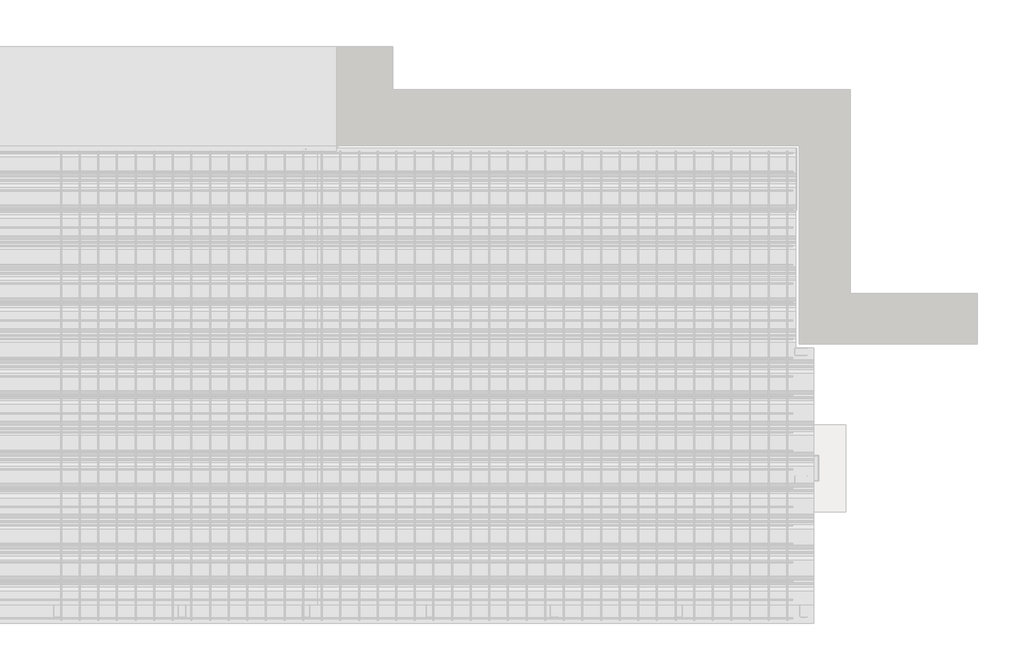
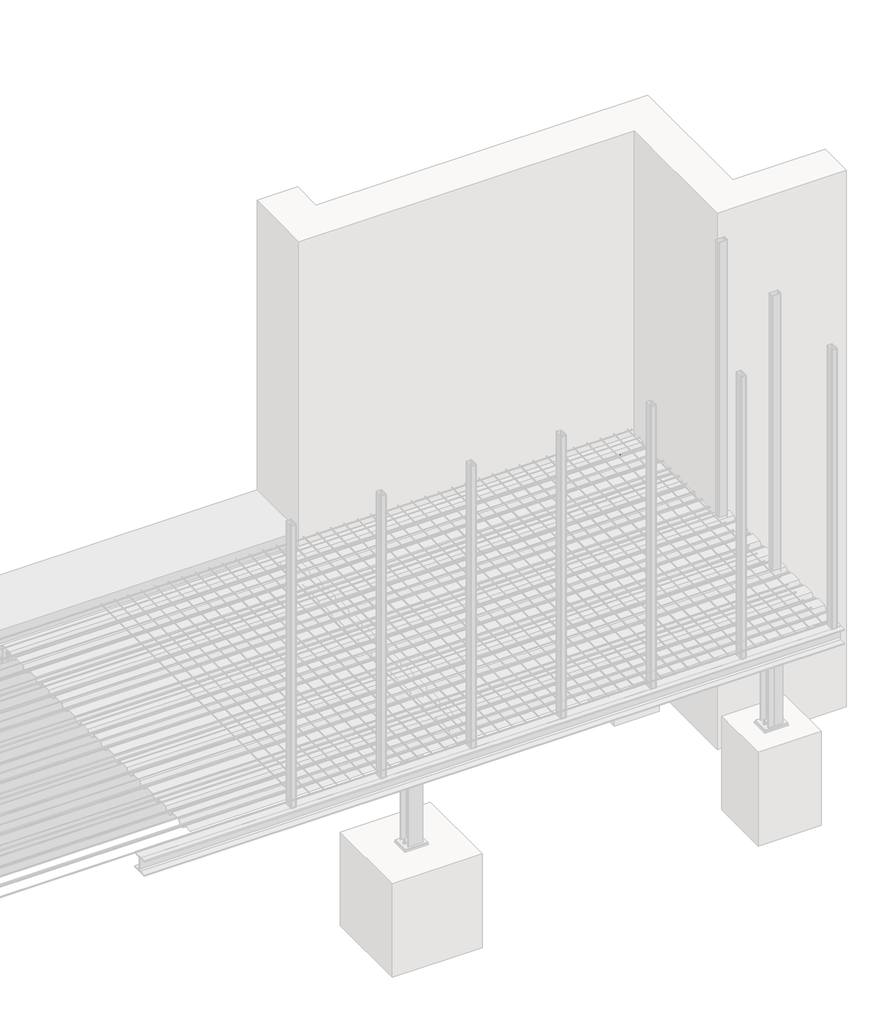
# One storey, part 34 of 36: 6 assemblies.
"""IFC4 building model written with IfcOpenShell, lengths in millimetres."""

from ifc_helpers import new_model, si_unit, point, frame, frame_2d, origin, place, context, project, spatial, polyline, circle_curve, ellipse_curve, trimmed, segment, composite_curve, outline, extrude, faceted_brep, element, save
from ifc_brep_helpers import plane_surface, revolved_surface, advanced_brep

model = new_model("IFC4")

# Units and contexts
model_context = context("Model", 3, world=origin())
ifc_project = project(units=[si_unit("LENGTHUNIT", "METRE", prefix="MILLI")], contexts=[model_context])

# Site, building, storey
site = spatial("IfcSite", under=ifc_project)
building = spatial("IfcBuilding", under=site)
storey = spatial("IfcBuildingStorey", under=building, Name="Základy", Elevation=-1200.0)

# Assemblies
placement = place(None, origin())
element("IfcElementAssembly", 1, at=placement, inside=storey, context=model_context, shape_type="AdvancedBrep", body=[
    advanced_brep(
    [(15960.0, 2050.0, -160.0), (16140.0, 2230.0, -160.0), (15995.0, 2230.0, -160.0), (15815.0, 2050.0, -160.0), (15960.0, 2050.0, -174.0), (15815.0, 2050.0, -174.0), (16030.75, 2120.75, -174.0), (15885.75, 2120.75, -174.0), (16045.75, 2135.75, -189.0), (15900.75, 2135.75, -189.0), (16045.75, 2135.75, -311.0), (15900.75, 2135.75, -311.0), (16030.75, 2120.75, -326.0), (15885.75, 2120.75, -326.0), (15960.0, 2050.0, -326.0), (15815.0, 2050.0, -326.0), (15960.0, 2050.0, -340.0), (15815.0, 2050.0, -340.0), (16140.0, 2230.0, -340.0), (15995.0, 2230.0, -340.0), (16140.0, 2230.0, -326.0), (15995.0, 2230.0, -326.0), (16069.25, 2159.25, -326.0), (15924.25, 2159.25, -326.0), (16054.25, 2144.25, -311.0), (15909.25, 2144.25, -311.0), (16054.25, 2144.25, -189.0), (15909.25, 2144.25, -189.0), (16069.25, 2159.25, -174.0), (15924.25, 2159.25, -174.0), (16140.0, 2230.0, -174.0), (15995.0, 2230.0, -174.0)],
    [
        (0, 1),
        (1, 2),
        (2, 3),
        (3, 0),
        (4, 0),
        (3, 5),
        (5, 4),
        (6, 4),
        (5, 7),
        (7, 6),
        (8, 6, ellipse_curve(frame((16030.75, 2120.75, -189.0), z_axis=(0.7071067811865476, -0.7071067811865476, 0.0), x_axis=(-0.7071067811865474, -0.7071067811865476, 0.0)), 21.2132034, 15.0)),
        (7, 9, ellipse_curve(frame((15885.75, 2120.75, -189.0), z_axis=(-0.7071067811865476, 0.7071067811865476, 0.0), x_axis=(-0.7071067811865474, -0.7071067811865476, 0.0)), 21.2132034, 15.0)),
        (9, 8),
        (10, 8),
        (9, 11),
        (11, 10),
        (12, 10, ellipse_curve(frame((16030.75, 2120.75, -311.0), z_axis=(0.7071067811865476, -0.7071067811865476, 0.0), x_axis=(-0.7071067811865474, -0.7071067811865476, 0.0)), 21.2132034, 15.0)),
        (11, 13, ellipse_curve(frame((15885.75, 2120.75, -311.0), z_axis=(-0.7071067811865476, 0.7071067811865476, 0.0), x_axis=(-0.7071067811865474, -0.7071067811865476, 0.0)), 21.2132034, 15.0)),
        (13, 12),
        (14, 12),
        (13, 15),
        (15, 14),
        (16, 14),
        (15, 17),
        (17, 16),
        (18, 16),
        (17, 19),
        (19, 18),
        (20, 18),
        (19, 21),
        (21, 20),
        (22, 20),
        (21, 23),
        (23, 22),
        (24, 22, ellipse_curve(frame((16069.25, 2159.25, -311.0), z_axis=(0.7071067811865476, -0.7071067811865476, 0.0), x_axis=(-0.7071067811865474, -0.7071067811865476, 0.0)), 21.2132034, 15.0)),
        (23, 25, ellipse_curve(frame((15924.25, 2159.25, -311.0), z_axis=(-0.7071067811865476, 0.7071067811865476, 0.0), x_axis=(-0.7071067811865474, -0.7071067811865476, 0.0)), 21.2132034, 15.0)),
        (25, 24),
        (26, 24),
        (25, 27),
        (27, 26),
        (28, 26, ellipse_curve(frame((16069.25, 2159.25, -189.0), z_axis=(0.7071067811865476, -0.7071067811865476, 0.0), x_axis=(-0.7071067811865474, -0.7071067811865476, 0.0)), 21.2132034, 15.0)),
        (27, 29, ellipse_curve(frame((15924.25, 2159.25, -189.0), z_axis=(-0.7071067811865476, 0.7071067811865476, 0.0), x_axis=(-0.7071067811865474, -0.7071067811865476, 0.0)), 21.2132034, 15.0)),
        (29, 28),
        (30, 28),
        (29, 31),
        (31, 30),
        (1, 30),
        (31, 2),
    ],
    [
        plane_surface(frame((16150.0, 2230.0, -160.0), z_axis=(0.0, 0.0, 1.0), x_axis=(-1.0, 0.0, 0.0))),
        plane_surface(frame((16150.0, 2050.0, -160.0), z_axis=(0.0, -1.0, 0.0), x_axis=(-1.0, 0.0, 0.0))),
        plane_surface(frame((16150.0, 2050.0, -174.0), z_axis=(0.0, 0.0, -1.0), x_axis=(-1.0, 0.0, 0.0))),
        revolved_surface(polyline([(15870.750000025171, 2105.75, -189.0), (16045.75, 2105.75, -189.0)]), (15805.0, 2120.75, -189.0), (-1.0, 0.0, 0.0)),
        plane_surface(frame((16150.0, 2135.75, -189.0), z_axis=(0.0, -1.0, 0.0), x_axis=(-1.0, 0.0, 0.0))),
        revolved_surface(polyline([(15870.750000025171, 2105.75, -311.0), (16045.75, 2105.75, -311.0)]), (15805.0, 2120.75, -311.0), (-1.0, 0.0, 0.0)),
        plane_surface(frame((16150.0, 2120.75, -326.0), z_axis=(0.0, 0.0, 1.0), x_axis=(-1.0, 0.0, 0.0))),
        plane_surface(frame((16150.0, 2050.0, -326.0), z_axis=(0.0, -1.0, 0.0), x_axis=(-1.0, 0.0, 0.0))),
        plane_surface(frame((16150.0, 2050.0, -340.0), z_axis=(0.0, 0.0, -1.0), x_axis=(-1.0, 0.0, 0.0))),
        plane_surface(frame((16150.0, 2230.0, -340.0), z_axis=(0.0, 1.0, 0.0), x_axis=(-1.0, 0.0, 0.0))),
        plane_surface(frame((16150.0, 2230.0, -326.0), z_axis=(0.0, 0.0, 1.0), x_axis=(-1.0, 0.0, 0.0))),
        revolved_surface(polyline([(15909.25, 2144.25, -311.0), (16084.249999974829, 2144.25, -311.0)]), (15805.0, 2159.25, -311.0), (-1.0, 0.0, 0.0)),
        plane_surface(frame((16150.0, 2144.25, -311.0), z_axis=(0.0, 1.0, 0.0), x_axis=(-1.0, 0.0, 0.0))),
        revolved_surface(polyline([(15909.25, 2144.25, -189.0), (16084.249999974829, 2144.25, -189.0)]), (15805.0, 2159.25, -189.0), (-1.0, 0.0, 0.0)),
        plane_surface(frame((16150.0, 2159.25, -174.0), z_axis=(0.0, 0.0, -1.0), x_axis=(-1.0, 0.0, 0.0))),
        plane_surface(frame((16150.0, 2230.0, -174.0), z_axis=(0.0, 1.0, 0.0), x_axis=(-1.0, 0.0, 0.0))),
        plane_surface(frame((16150.0, 2240.0, -160.0), z_axis=(0.7071067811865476, -0.7071067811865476, 0.0), x_axis=(0.7071067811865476, 0.7071067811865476, 0.0))),
        plane_surface(frame((15805.0, 2040.0, -160.0), z_axis=(-0.7071067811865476, 0.7071067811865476, 0.0), x_axis=(0.7071067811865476, 0.7071067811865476, 0.0))),
    ],
    [
        (0, [[1, 2, 3, 4]]),
        (1, [[5, -4, 6, 7]]),
        (2, [[8, -7, 9, 10]]),
        (3, [[11, -10, 12, 13]]),
        (4, [[14, -13, 15, 16]]),
        (5, [[17, -16, 18, 19]]),
        (6, [[20, -19, 21, 22]]),
        (7, [[23, -22, 24, 25]]),
        (8, [[26, -25, 27, 28]]),
        (9, [[29, -28, 30, 31]]),
        (10, [[32, -31, 33, 34]]),
        (11, [[35, -34, 36, 37]]),
        (12, [[38, -37, 39, 40]]),
        (13, [[41, -40, 42, 43]]),
        (14, [[44, -43, 45, 46]]),
        (15, [[47, -46, 48, -2]]),
        (16, [[-1, -5, -8, -11, -14, -17, -20, -23, -26, -29, -32, -35, -38, -41, -44, -47]]),
        (17, [[-3, -48, -45, -42, -39, -36, -33, -30, -27, -24, -21, -18, -15, -12, -9, -6]]),
    ],
),
])
element("IfcElementAssembly", 2, at=placement, inside=storey, context=model_context, shape_type="SolidModel", body=[
    advanced_brep(
    [(15995.0, 3840.0, -340.0), (15815.0, 3840.0, -340.0), (15815.0, 3840.0, -326.0), (15885.75, 3840.0, -326.0), (15900.75, 3840.0, -311.0), (15900.75, 3840.0, -189.0), (15885.75, 3840.0, -174.0), (15815.0, 3840.0, -174.0), (15815.0, 3840.0, -160.0), (15995.0, 3840.0, -160.0), (15995.0, 3840.0, -174.0), (15924.25, 3840.0, -174.0), (15909.25, 3840.0, -189.0), (15909.25, 3840.0, -311.0), (15924.25, 3840.0, -326.0), (15995.0, 3840.0, -326.0), (15995.0, 2230.0, -340.0), (15815.0, 2050.0, -340.0), (15815.0, 2050.0, -326.0), (15885.75, 2120.75, -326.0), (15900.75, 2135.75, -311.0), (15900.75, 2135.75, -189.0), (15885.75, 2120.75, -174.0), (15815.0, 2050.0, -174.0), (15815.0, 2050.0, -160.0), (15995.0, 2230.0, -160.0), (15995.0, 2230.0, -174.0), (15924.25, 2159.25, -174.0), (15909.25, 2144.25, -189.0), (15909.25, 2144.25, -311.0), (15924.25, 2159.25, -326.0), (15995.0, 2230.0, -326.0)],
    [
        (0, 1),
        (1, 2),
        (2, 3),
        (3, 4, circle_curve(frame((15885.75, 3840.0, -311.0), z_axis=(0.0, -1.0, 0.0), x_axis=(-1.0, 0.0, 0.0)), 15.0)),
        (4, 5),
        (5, 6, circle_curve(frame((15885.75, 3840.0, -189.0), z_axis=(0.0, -1.0, 0.0), x_axis=(-1.0, 0.0, 0.0)), 15.0)),
        (6, 7),
        (7, 8),
        (8, 9),
        (9, 10),
        (10, 11),
        (11, 12, circle_curve(frame((15924.25, 3840.0, -189.0), z_axis=(0.0, -1.0, 0.0), x_axis=(-1.0, 0.0, 0.0)), 15.0)),
        (12, 13),
        (13, 14, circle_curve(frame((15924.25, 3840.0, -311.0), z_axis=(0.0, -1.0, 0.0), x_axis=(-1.0, 0.0, 0.0)), 15.0)),
        (14, 15),
        (15, 0),
        (0, 16),
        (16, 17),
        (17, 1),
        (17, 18),
        (18, 2),
        (18, 19),
        (19, 3),
        (19, 20, ellipse_curve(frame((15885.75, 2120.75, -311.0), z_axis=(0.7071067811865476, -0.7071067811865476, 0.0), x_axis=(-0.7071067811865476, -0.7071067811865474, 0.0)), 21.2132034, 15.0)),
        (20, 4),
        (20, 21),
        (21, 5),
        (21, 22, ellipse_curve(frame((15885.75, 2120.75, -189.0), z_axis=(0.7071067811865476, -0.7071067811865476, 0.0), x_axis=(-0.7071067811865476, -0.7071067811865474, 0.0)), 21.2132034, 15.0)),
        (22, 6),
        (22, 23),
        (23, 7),
        (23, 24),
        (24, 8),
        (24, 25),
        (25, 9),
        (25, 26),
        (26, 10),
        (26, 27),
        (27, 11),
        (27, 28, ellipse_curve(frame((15924.25, 2159.25, -189.0), z_axis=(0.7071067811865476, -0.7071067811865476, 0.0), x_axis=(-0.7071067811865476, -0.7071067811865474, 0.0)), 21.2132034, 15.0)),
        (28, 12),
        (28, 29),
        (29, 13),
        (29, 30, ellipse_curve(frame((15924.25, 2159.25, -311.0), z_axis=(0.7071067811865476, -0.7071067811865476, 0.0), x_axis=(-0.7071067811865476, -0.7071067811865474, 0.0)), 21.2132034, 15.0)),
        (30, 14),
        (30, 31),
        (31, 15),
        (31, 16),
    ],
    [
        plane_surface(frame((15905.0, 3840.0, -250.0), z_axis=(0.0, 1.0, 0.0), x_axis=(0.0, 0.0, 1.0))),
        plane_surface(frame((15995.0, 3840.0, -340.0), z_axis=(0.0, 0.0, -1.0), x_axis=(0.0, -1.0, 0.0))),
        plane_surface(frame((15815.0, 3840.0, -340.0), z_axis=(-1.0, 0.0, 0.0), x_axis=(0.0, -1.0, 0.0))),
        plane_surface(frame((15815.0, 3840.0, -326.0), z_axis=(0.0, 0.0, 1.0), x_axis=(0.0, -1.0, 0.0))),
        revolved_surface(polyline([(15870.75, 2105.7500000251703, -311.0), (15870.75, 3840.0, -311.0)]), (15885.75, 2040.0, -311.0), (0.0, -1.0, 0.0)),
        plane_surface(frame((15900.75, 3840.0, -311.0), z_axis=(-1.0, 0.0, 0.0), x_axis=(0.0, -1.0, 0.0))),
        revolved_surface(polyline([(15870.75, 2105.7500000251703, -189.0), (15870.75, 3840.0, -189.0)]), (15885.75, 2040.0, -189.0), (0.0, -1.0, 0.0)),
        plane_surface(frame((15885.75, 3840.0, -174.0), z_axis=(0.0, 0.0, -1.0), x_axis=(0.0, -1.0, 0.0))),
        plane_surface(frame((15815.0, 3840.0, -174.0), z_axis=(-1.0, 0.0, 0.0), x_axis=(0.0, -1.0, 0.0))),
        plane_surface(frame((15815.0, 3840.0, -160.0), z_axis=(0.0, 0.0, 1.0), x_axis=(0.0, -1.0, 0.0))),
        plane_surface(frame((15995.0, 3840.0, -160.0), z_axis=(1.0, 0.0, 0.0), x_axis=(0.0, -1.0, 0.0))),
        plane_surface(frame((15995.0, 3840.0, -174.0), z_axis=(0.0, 0.0, -1.0), x_axis=(0.0, -1.0, 0.0))),
        revolved_surface(polyline([(15909.25, 2144.25, -189.0), (15909.25, 3840.0, -189.0)]), (15924.25, 2040.0, -189.0), (0.0, -1.0, 0.0)),
        plane_surface(frame((15909.25, 3840.0, -189.0), z_axis=(1.0, 0.0, 0.0), x_axis=(0.0, -1.0, 0.0))),
        revolved_surface(polyline([(15909.25, 2144.25, -311.0), (15909.25, 3840.0, -311.0)]), (15924.25, 2040.0, -311.0), (0.0, -1.0, 0.0)),
        plane_surface(frame((15924.25, 3840.0, -326.0), z_axis=(0.0, 0.0, 1.0), x_axis=(0.0, -1.0, 0.0))),
        plane_surface(frame((15995.0, 3840.0, -326.0), z_axis=(1.0, 0.0, 0.0), x_axis=(0.0, -1.0, 0.0))),
        plane_surface(frame((16005.0, 2240.0, -160.0), z_axis=(0.7071067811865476, -0.7071067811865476, 0.0), x_axis=(0.7071067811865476, 0.7071067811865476, 0.0))),
    ],
    [
        (0, [[1, 2, 3, 4, 5, 6, 7, 8, 9, 10, 11, 12, 13, 14, 15, 16]]),
        (1, [[-1, 17, 18, 19]]),
        (2, [[-2, -19, 20, 21]]),
        (3, [[-3, -21, 22, 23]]),
        (4, [[-4, -23, 24, 25]]),
        (5, [[-5, -25, 26, 27]]),
        (6, [[-6, -27, 28, 29]]),
        (7, [[-7, -29, 30, 31]]),
        (8, [[-8, -31, 32, 33]]),
        (9, [[-9, -33, 34, 35]]),
        (10, [[-10, -35, 36, 37]]),
        (11, [[-11, -37, 38, 39]]),
        (12, [[-12, -39, 40, 41]]),
        (13, [[-13, -41, 42, 43]]),
        (14, [[-14, -43, 44, 45]]),
        (15, [[-15, -45, 46, 47]]),
        (16, [[-16, -47, 48, -17]]),
        (17, [[-18, -48, -46, -44, -42, -40, -38, -36, -34, -32, -30, -28, -26, -24, -22, -20]]),
    ],
),
    extrude(outline(polyline([(15805.0, 3765.0), (15805.0, 3835.0), (15815.0, 3835.0), (15815.0, 3765.0), (15805.0, 3765.0)])), frame((0.0, 0.0, -330.0), z_axis=(0.0, 0.0, 1.0), x_axis=(1.0, 0.0, 0.0)), (0.0, 0.0, 1.0), 160.0),
    extrude(outline(composite_curve([segment(polyline([(-174.0, 15815.0), (-326.0, 15815.0), (-326.0, 15875.5)]), True, "CONTINUOUS"), segment(trimmed(circle_curve(frame_2d((-326.0, 15900.5)), 25.0), [point((-326.0, 15875.5))], [point((-301.0, 15900.5))], True, "CARTESIAN"), True, "CONTINUOUS"), segment(polyline([(-301.0, 15900.5), (-199.0, 15900.5)]), True, "CONTINUOUS"), segment(trimmed(circle_curve(frame_2d((-174.0, 15900.5)), 25.0), [point((-199.0, 15900.5))], [point((-174.0, 15875.5))], True, "CARTESIAN"), True, "CONTINUOUS"), segment(polyline([(-174.0, 15875.5), (-174.0, 15815.0)]), True, "CONTINUOUS")], self_intersect=False)), frame((0.0, 3795.75, 0.0), z_axis=(0.0, 1.0, 0.0), x_axis=(0.0, 0.0, 1.0)), (0.0, 0.0, 1.0), 8.0),
    extrude(outline(composite_curve([segment(trimmed(circle_curve(frame_2d((3800.0, -200.0)), 9.0), [point((3800.0, -209.0))], [point((3800.0, -191.0))], False, "CARTESIAN"), True, "CONTINUOUS"), segment(trimmed(circle_curve(frame_2d((3800.0, -200.0)), 9.0), [point((3800.0, -191.0))], [point((3800.0, -209.0))], False, "CARTESIAN"), True, "CONTINUOUS")], self_intersect=False)), frame((15804.9, 0.0, 0.0), z_axis=(1.0, 0.0, 0.0), x_axis=(0.0, 1.0, 0.0)), (0.0, 0.0, 1.0), 10.1),
    extrude(outline(polyline([(3800.0, -213.8564065), (3788.0, -206.9282032), (3788.0, -193.0717968), (3800.0, -186.1435935), (3812.0, -193.0717968), (3812.0, -206.9282032), (3800.0, -213.8564065)])), frame((15784.0, 0.0, 0.0), z_axis=(1.0, 0.0, 0.0), x_axis=(0.0, 1.0, 0.0)), (0.0, 0.0, 1.0), 10.0),
    extrude(outline(composite_curve([segment(trimmed(circle_curve(frame_2d((3800.0, -200.0)), 8.0), [point((3800.0, -208.0))], [point((3800.0, -192.0))], False, "CARTESIAN"), True, "CONTINUOUS"), segment(trimmed(circle_curve(frame_2d((3800.0, -200.0)), 8.0), [point((3800.0, -192.0))], [point((3800.0, -208.0))], False, "CARTESIAN"), True, "CONTINUOUS")], self_intersect=False)), frame((15794.0, 0.0, 0.0), z_axis=(1.0, 0.0, 0.0), x_axis=(0.0, 1.0, 0.0)), (0.0, 0.0, 1.0), 50.0),
    extrude(outline(composite_curve([segment(trimmed(circle_curve(frame_2d((3800.0, -200.0)), 15.0), [point((3800.0, -215.0))], [point((3800.0, -185.0))], False, "CARTESIAN"), True, "CONTINUOUS"), segment(trimmed(circle_curve(frame_2d((3800.0, -200.0)), 15.0), [point((3800.0, -185.0))], [point((3800.0, -215.0))], False, "CARTESIAN"), True, "CONTINUOUS")], self_intersect=False)), frame((15794.0, 0.0, 0.0), z_axis=(1.0, 0.0, 0.0), x_axis=(0.0, 1.0, 0.0)), (0.0, 0.0, 1.0), 3.0),
    extrude(outline(composite_curve([segment(trimmed(circle_curve(frame_2d((3800.0, -200.0)), 15.0), [point((3800.0, -215.0))], [point((3800.0, -185.0))], False, "CARTESIAN"), True, "CONTINUOUS"), segment(trimmed(circle_curve(frame_2d((3800.0, -200.0)), 15.0), [point((3800.0, -185.0))], [point((3800.0, -215.0))], False, "CARTESIAN"), True, "CONTINUOUS")], self_intersect=False)), frame((15815.0, 0.0, 0.0), z_axis=(1.0, 0.0, 0.0), x_axis=(0.0, 1.0, 0.0)), (0.0, 0.0, 1.0), 3.0),
    extrude(outline(polyline([(3800.0, -215.4441197), (3786.625, -207.7220599), (3786.625, -192.2779401), (3800.0, -184.5558803), (3813.375, -192.2779401), (3813.375, -207.7220599), (3800.0, -215.4441197)])), frame((15818.0, 0.0, 0.0), z_axis=(1.0, 0.0, 0.0), x_axis=(0.0, 1.0, 0.0)), (0.0, 0.0, 1.0), 13.0),
    extrude(outline(composite_curve([segment(trimmed(circle_curve(frame_2d((3800.0, -200.0)), 9.0), [point((3800.0, -209.0))], [point((3800.0, -191.0))], False, "CARTESIAN"), True, "CONTINUOUS"), segment(trimmed(circle_curve(frame_2d((3800.0, -200.0)), 9.0), [point((3800.0, -191.0))], [point((3800.0, -209.0))], False, "CARTESIAN"), True, "CONTINUOUS")], self_intersect=False)), frame((15797.1, 0.0, 0.0), z_axis=(1.0, 0.0, 0.0), x_axis=(0.0, 1.0, 0.0)), (0.0, 0.0, 1.0), 8.0),
    extrude(outline(composite_curve([segment(trimmed(circle_curve(frame_2d((3800.0, -300.0)), 9.0), [point((3800.0, -309.0))], [point((3800.0, -291.0))], False, "CARTESIAN"), True, "CONTINUOUS"), segment(trimmed(circle_curve(frame_2d((3800.0, -300.0)), 9.0), [point((3800.0, -291.0))], [point((3800.0, -309.0))], False, "CARTESIAN"), True, "CONTINUOUS")], self_intersect=False)), frame((15804.9, 0.0, 0.0), z_axis=(1.0, 0.0, 0.0), x_axis=(0.0, 1.0, 0.0)), (0.0, 0.0, 1.0), 10.1),
    extrude(outline(polyline([(3800.0, -313.8564065), (3788.0, -306.9282032), (3788.0, -293.0717968), (3800.0, -286.1435935), (3812.0, -293.0717968), (3812.0, -306.9282032), (3800.0, -313.8564065)])), frame((15784.0, 0.0, 0.0), z_axis=(1.0, 0.0, 0.0), x_axis=(0.0, 1.0, 0.0)), (0.0, 0.0, 1.0), 10.0),
    extrude(outline(composite_curve([segment(trimmed(circle_curve(frame_2d((3800.0, -300.0)), 8.0), [point((3800.0, -308.0))], [point((3800.0, -292.0))], False, "CARTESIAN"), True, "CONTINUOUS"), segment(trimmed(circle_curve(frame_2d((3800.0, -300.0)), 8.0), [point((3800.0, -292.0))], [point((3800.0, -308.0))], False, "CARTESIAN"), True, "CONTINUOUS")], self_intersect=False)), frame((15794.0, 0.0, 0.0), z_axis=(1.0, 0.0, 0.0), x_axis=(0.0, 1.0, 0.0)), (0.0, 0.0, 1.0), 50.0),
    extrude(outline(composite_curve([segment(trimmed(circle_curve(frame_2d((3800.0, -300.0)), 15.0), [point((3800.0, -315.0))], [point((3800.0, -285.0))], False, "CARTESIAN"), True, "CONTINUOUS"), segment(trimmed(circle_curve(frame_2d((3800.0, -300.0)), 15.0), [point((3800.0, -285.0))], [point((3800.0, -315.0))], False, "CARTESIAN"), True, "CONTINUOUS")], self_intersect=False)), frame((15794.0, 0.0, 0.0), z_axis=(1.0, 0.0, 0.0), x_axis=(0.0, 1.0, 0.0)), (0.0, 0.0, 1.0), 3.0),
    extrude(outline(composite_curve([segment(trimmed(circle_curve(frame_2d((3800.0, -300.0)), 15.0), [point((3800.0, -315.0))], [point((3800.0, -285.0))], False, "CARTESIAN"), True, "CONTINUOUS"), segment(trimmed(circle_curve(frame_2d((3800.0, -300.0)), 15.0), [point((3800.0, -285.0))], [point((3800.0, -315.0))], False, "CARTESIAN"), True, "CONTINUOUS")], self_intersect=False)), frame((15815.0, 0.0, 0.0), z_axis=(1.0, 0.0, 0.0), x_axis=(0.0, 1.0, 0.0)), (0.0, 0.0, 1.0), 3.0),
    extrude(outline(polyline([(3800.0, -315.4441197), (3786.625, -307.7220599), (3786.625, -292.2779401), (3800.0, -284.5558803), (3813.375, -292.2779401), (3813.375, -307.7220599), (3800.0, -315.4441197)])), frame((15818.0, 0.0, 0.0), z_axis=(1.0, 0.0, 0.0), x_axis=(0.0, 1.0, 0.0)), (0.0, 0.0, 1.0), 13.0),
    extrude(outline(composite_curve([segment(trimmed(circle_curve(frame_2d((3800.0, -300.0)), 9.0), [point((3800.0, -309.0))], [point((3800.0, -291.0))], False, "CARTESIAN"), True, "CONTINUOUS"), segment(trimmed(circle_curve(frame_2d((3800.0, -300.0)), 9.0), [point((3800.0, -291.0))], [point((3800.0, -309.0))], False, "CARTESIAN"), True, "CONTINUOUS")], self_intersect=False)), frame((15797.1, 0.0, 0.0), z_axis=(1.0, 0.0, 0.0), x_axis=(0.0, 1.0, 0.0)), (0.0, 0.0, 1.0), 8.0),
])
element("IfcElementAssembly", 3, at=placement, inside=storey, context=model_context, shape_type="SweptSolid", body=[
    extrude(outline(polyline([(16005.0, 3840.0), (16005.0, 3340.0), (15505.0, 3340.0), (15505.0, 3840.0), (16005.0, 3840.0)])), frame((0.0, 0.0, -3100.0), z_axis=(0.0, 0.0, 1.0), x_axis=(1.0, 0.0, 0.0)), (0.0, 0.0, 1.0), 1100.0),
])
element("IfcElementAssembly", 4, at=placement, inside=storey, context=model_context, shape_type="SweptSolid", body=[
    extrude(outline(polyline([(3840.0, -160.0), (3840.0, -340.0), (3765.0, -340.0), (3765.0, -329.5), (3834.5, -329.5), (3834.5, -170.5), (3765.0, -170.5), (3765.0, -160.0), (3840.0, -160.0)])), frame((12315.0, 0.0, 0.0), z_axis=(1.0, 0.0, 0.0), x_axis=(0.0, 1.0, 0.0)), (0.0, 0.0, 1.0), 3482.0),
    extrude(outline(polyline([(15797.0, 3765.0), (15797.0, 3835.0), (15805.0, 3835.0), (15805.0, 3765.0), (15797.0, 3765.0)])), frame((0.0, 0.0, -330.0), z_axis=(0.0, 0.0, 1.0), x_axis=(1.0, 0.0, 0.0)), (0.0, 0.0, 1.0), 160.0),
    extrude(outline(polyline([(12315.0, 3835.0), (12315.0, 3765.0), (12305.0, 3765.0), (12305.0, 3835.0), (12315.0, 3835.0)])), frame((0.0, 0.0, -329.5), z_axis=(0.0, 0.0, 1.0), x_axis=(1.0, 0.0, 0.0)), (0.0, 0.0, 1.0), 159.0),
    extrude(outline(composite_curve([segment(trimmed(circle_curve(frame_2d((3800.0, -290.0)), 9.0), [point((3809.0, -290.0))], [point((3791.0, -290.0))], False, "CARTESIAN"), True, "CONTINUOUS"), segment(trimmed(circle_curve(frame_2d((3800.0, -290.0)), 9.0), [point((3791.0, -290.0))], [point((3809.0, -290.0))], False, "CARTESIAN"), True, "CONTINUOUS")], self_intersect=False)), frame((12304.9, 0.0, 0.0), z_axis=(1.0, 0.0, 0.0), x_axis=(0.0, 1.0, 0.0)), (0.0, 0.0, 1.0), 10.0),
    extrude(outline(polyline([(3813.8564065, -290.0), (3806.9282032, -302.0), (3793.0717968, -302.0), (3786.1435935, -290.0), (3793.0717968, -278.0), (3806.9282032, -278.0), (3813.8564065, -290.0)])), frame((12318.0, 0.0, 0.0), z_axis=(1.0, 0.0, 0.0), x_axis=(0.0, 1.0, 0.0)), (0.0, 0.0, 1.0), 10.0),
    extrude(outline(composite_curve([segment(trimmed(circle_curve(frame_2d((3800.0, -290.0)), 8.0), [point((3808.0, -290.0))], [point((3792.0, -290.0))], False, "CARTESIAN"), True, "CONTINUOUS"), segment(trimmed(circle_curve(frame_2d((3800.0, -290.0)), 8.0), [point((3792.0, -290.0))], [point((3808.0, -290.0))], False, "CARTESIAN"), True, "CONTINUOUS")], self_intersect=False)), frame((12268.0, 0.0, 0.0), z_axis=(1.0, 0.0, 0.0), x_axis=(0.0, 1.0, 0.0)), (0.0, 0.0, 1.0), 50.0),
    extrude(outline(composite_curve([segment(trimmed(circle_curve(frame_2d((3800.0, -290.0)), 15.0), [point((3815.0, -290.0))], [point((3785.0, -290.0))], False, "CARTESIAN"), True, "CONTINUOUS"), segment(trimmed(circle_curve(frame_2d((3800.0, -290.0)), 15.0), [point((3785.0, -290.0))], [point((3815.0, -290.0))], False, "CARTESIAN"), True, "CONTINUOUS")], self_intersect=False)), frame((12315.0, 0.0, 0.0), z_axis=(1.0, 0.0, 0.0), x_axis=(0.0, 1.0, 0.0)), (0.0, 0.0, 1.0), 3.0),
    extrude(outline(composite_curve([segment(trimmed(circle_curve(frame_2d((3800.0, -290.0)), 15.0), [point((3815.0, -290.0))], [point((3785.0, -290.0))], False, "CARTESIAN"), True, "CONTINUOUS"), segment(trimmed(circle_curve(frame_2d((3800.0, -290.0)), 15.0), [point((3785.0, -290.0))], [point((3815.0, -290.0))], False, "CARTESIAN"), True, "CONTINUOUS")], self_intersect=False)), frame((12292.0, 0.0, 0.0), z_axis=(1.0, 0.0, 0.0), x_axis=(0.0, 1.0, 0.0)), (0.0, 0.0, 1.0), 3.0),
    extrude(outline(polyline([(3815.4441197, -290.0), (3807.7220599, -303.375), (3792.2779401, -303.375), (3784.5558803, -290.0), (3792.2779401, -276.625), (3807.7220599, -276.625), (3815.4441197, -290.0)])), frame((12279.0, 0.0, 0.0), z_axis=(1.0, 0.0, 0.0), x_axis=(0.0, 1.0, 0.0)), (0.0, 0.0, 1.0), 13.0),
    extrude(outline(composite_curve([segment(trimmed(circle_curve(frame_2d((3800.0, -290.0)), 9.0), [point((3809.0, -290.0))], [point((3791.0, -290.0))], False, "CARTESIAN"), True, "CONTINUOUS"), segment(trimmed(circle_curve(frame_2d((3800.0, -290.0)), 9.0), [point((3791.0, -290.0))], [point((3809.0, -290.0))], False, "CARTESIAN"), True, "CONTINUOUS")], self_intersect=False)), frame((12295.0, 0.0, 0.0), z_axis=(1.0, 0.0, 0.0), x_axis=(0.0, 1.0, 0.0)), (0.0, 0.0, 1.0), 10.1),
    extrude(outline(composite_curve([segment(trimmed(circle_curve(frame_2d((3800.0, -210.0)), 9.0), [point((3809.0, -210.0))], [point((3791.0, -210.0))], False, "CARTESIAN"), True, "CONTINUOUS"), segment(trimmed(circle_curve(frame_2d((3800.0, -210.0)), 9.0), [point((3791.0, -210.0))], [point((3809.0, -210.0))], False, "CARTESIAN"), True, "CONTINUOUS")], self_intersect=False)), frame((12304.9, 0.0, 0.0), z_axis=(1.0, 0.0, 0.0), x_axis=(0.0, 1.0, 0.0)), (0.0, 0.0, 1.0), 10.0),
    extrude(outline(polyline([(3813.8564065, -210.0), (3806.9282032, -222.0), (3793.0717968, -222.0), (3786.1435935, -210.0), (3793.0717968, -198.0), (3806.9282032, -198.0), (3813.8564065, -210.0)])), frame((12318.0, 0.0, 0.0), z_axis=(1.0, 0.0, 0.0), x_axis=(0.0, 1.0, 0.0)), (0.0, 0.0, 1.0), 10.0),
    extrude(outline(composite_curve([segment(trimmed(circle_curve(frame_2d((3800.0, -210.0)), 8.0), [point((3808.0, -210.0))], [point((3792.0, -210.0))], False, "CARTESIAN"), True, "CONTINUOUS"), segment(trimmed(circle_curve(frame_2d((3800.0, -210.0)), 8.0), [point((3792.0, -210.0))], [point((3808.0, -210.0))], False, "CARTESIAN"), True, "CONTINUOUS")], self_intersect=False)), frame((12268.0, 0.0, 0.0), z_axis=(1.0, 0.0, 0.0), x_axis=(0.0, 1.0, 0.0)), (0.0, 0.0, 1.0), 50.0),
    extrude(outline(composite_curve([segment(trimmed(circle_curve(frame_2d((3800.0, -210.0)), 15.0), [point((3815.0, -210.0))], [point((3785.0, -210.0))], False, "CARTESIAN"), True, "CONTINUOUS"), segment(trimmed(circle_curve(frame_2d((3800.0, -210.0)), 15.0), [point((3785.0, -210.0))], [point((3815.0, -210.0))], False, "CARTESIAN"), True, "CONTINUOUS")], self_intersect=False)), frame((12315.0, 0.0, 0.0), z_axis=(1.0, 0.0, 0.0), x_axis=(0.0, 1.0, 0.0)), (0.0, 0.0, 1.0), 3.0),
    extrude(outline(composite_curve([segment(trimmed(circle_curve(frame_2d((3800.0, -210.0)), 15.0), [point((3815.0, -210.0))], [point((3785.0, -210.0))], False, "CARTESIAN"), True, "CONTINUOUS"), segment(trimmed(circle_curve(frame_2d((3800.0, -210.0)), 15.0), [point((3785.0, -210.0))], [point((3815.0, -210.0))], False, "CARTESIAN"), True, "CONTINUOUS")], self_intersect=False)), frame((12292.0, 0.0, 0.0), z_axis=(1.0, 0.0, 0.0), x_axis=(0.0, 1.0, 0.0)), (0.0, 0.0, 1.0), 3.0),
    extrude(outline(polyline([(3815.4441197, -210.0), (3807.7220599, -223.375), (3792.2779401, -223.375), (3784.5558803, -210.0), (3792.2779401, -196.625), (3807.7220599, -196.625), (3815.4441197, -210.0)])), frame((12279.0, 0.0, 0.0), z_axis=(1.0, 0.0, 0.0), x_axis=(0.0, 1.0, 0.0)), (0.0, 0.0, 1.0), 13.0),
    extrude(outline(composite_curve([segment(trimmed(circle_curve(frame_2d((3800.0, -210.0)), 9.0), [point((3809.0, -210.0))], [point((3791.0, -210.0))], False, "CARTESIAN"), True, "CONTINUOUS"), segment(trimmed(circle_curve(frame_2d((3800.0, -210.0)), 9.0), [point((3791.0, -210.0))], [point((3809.0, -210.0))], False, "CARTESIAN"), True, "CONTINUOUS")], self_intersect=False)), frame((12295.0, 0.0, 0.0), z_axis=(1.0, 0.0, 0.0), x_axis=(0.0, 1.0, 0.0)), (0.0, 0.0, 1.0), 10.1),
])
element("IfcElementAssembly", 5, at=placement, inside=storey, context=model_context, shape_type="SweptSolid", body=[
    extrude(outline(polyline([(12750.0, 4310.0), (16435.0, 4310.0), (16435.0, 2670.0), (17460.0, 2670.0), (17460.0, 2260.0), (16025.0, 2260.0), (16025.0, 3860.0), (12300.0, 3860.0), (12300.0, 4660.0), (12750.0, 4660.0), (12750.0, 4310.0)])), frame((0.0, 0.0, -2900.0), z_axis=(0.0, 0.0, 1.0), x_axis=(1.0, 0.0, 0.0)), (0.0, 0.0, 1.0), 6300.0),
    extrude(outline(composite_curve([segment(polyline([(3765.0, -174.0), (3814.5, -174.0)]), True, "CONTINUOUS"), segment(trimmed(circle_curve(frame_2d((3834.5, -174.0)), 20.0), [point((3814.5, -174.0))], [point((3834.5, -194.0))], True, "CARTESIAN"), True, "CONTINUOUS"), segment(polyline([(3834.5, -194.0), (3834.5, -306.0)]), True, "CONTINUOUS"), segment(trimmed(circle_curve(frame_2d((3834.5, -326.0)), 20.0), [point((3834.5, -306.0))], [point((3814.5, -326.0))], True, "CARTESIAN"), True, "CONTINUOUS"), segment(polyline([(3814.5, -326.0), (3765.0, -326.0), (3765.0, -174.0)]), True, "CONTINUOUS")], self_intersect=False)), frame((14046.0, 0.0, 0.0), z_axis=(1.0, 0.0, 0.0), x_axis=(0.0, 1.0, 0.0)), (0.0, 0.0, 1.0), 8.0),
    extrude(outline(polyline([(13985.0, 3765.0), (14115.0, 3765.0), (14115.0, 3755.0), (13985.0, 3755.0), (13985.0, 3765.0)])), frame((0.0, 0.0, -332.0), z_axis=(0.0, 0.0, 1.0), x_axis=(1.0, 0.0, 0.0)), (0.0, 0.0, 1.0), 164.0),
    extrude(outline(composite_curve([segment(trimmed(circle_curve(frame_2d((-290.0, 14015.0)), 9.0), [point((-290.0, 14024.0))], [point((-290.0, 14006.0))], False, "CARTESIAN"), True, "CONTINUOUS"), segment(trimmed(circle_curve(frame_2d((-290.0, 14015.0)), 9.0), [point((-290.0, 14006.0))], [point((-290.0, 14024.0))], False, "CARTESIAN"), True, "CONTINUOUS")], self_intersect=False)), frame((0.0, 3754.9, 0.0), z_axis=(0.0, 1.0, 0.0), x_axis=(0.0, 0.0, 1.0)), (0.0, 0.0, 1.0), 10.0),
    extrude(outline(polyline([(-290.0, 14028.8564065), (-278.0, 14021.9282032), (-278.0, 14008.0717968), (-290.0, 14001.1435935), (-302.0, 14008.0717968), (-302.0, 14021.9282032), (-290.0, 14028.8564065)])), frame((0.0, 3768.0, 0.0), z_axis=(0.0, 1.0, 0.0), x_axis=(0.0, 0.0, 1.0)), (0.0, 0.0, 1.0), 10.0),
    extrude(outline(composite_curve([segment(trimmed(circle_curve(frame_2d((-290.0, 14015.0)), 8.0), [point((-290.0, 14023.0))], [point((-290.0, 14007.0))], False, "CARTESIAN"), True, "CONTINUOUS"), segment(trimmed(circle_curve(frame_2d((-290.0, 14015.0)), 8.0), [point((-290.0, 14007.0))], [point((-290.0, 14023.0))], False, "CARTESIAN"), True, "CONTINUOUS")], self_intersect=False)), frame((0.0, 3718.0, 0.0), z_axis=(0.0, 1.0, 0.0), x_axis=(0.0, 0.0, 1.0)), (0.0, 0.0, 1.0), 50.0),
    extrude(outline(composite_curve([segment(trimmed(circle_curve(frame_2d((-290.0, 14015.0)), 15.0), [point((-290.0, 14030.0))], [point((-290.0, 14000.0))], False, "CARTESIAN"), True, "CONTINUOUS"), segment(trimmed(circle_curve(frame_2d((-290.0, 14015.0)), 15.0), [point((-290.0, 14000.0))], [point((-290.0, 14030.0))], False, "CARTESIAN"), True, "CONTINUOUS")], self_intersect=False)), frame((0.0, 3765.0, 0.0), z_axis=(0.0, 1.0, 0.0), x_axis=(0.0, 0.0, 1.0)), (0.0, 0.0, 1.0), 3.0),
    extrude(outline(composite_curve([segment(trimmed(circle_curve(frame_2d((-290.0, 14015.0)), 15.0), [point((-290.0, 14030.0))], [point((-290.0, 14000.0))], False, "CARTESIAN"), True, "CONTINUOUS"), segment(trimmed(circle_curve(frame_2d((-290.0, 14015.0)), 15.0), [point((-290.0, 14000.0))], [point((-290.0, 14030.0))], False, "CARTESIAN"), True, "CONTINUOUS")], self_intersect=False)), frame((0.0, 3742.0, 0.0), z_axis=(0.0, 1.0, 0.0), x_axis=(0.0, 0.0, 1.0)), (0.0, 0.0, 1.0), 3.0),
    extrude(outline(polyline([(-290.0, 14030.4441197), (-276.625, 14022.7220599), (-276.625, 14007.2779401), (-290.0, 13999.5558803), (-303.375, 14007.2779401), (-303.375, 14022.7220599), (-290.0, 14030.4441197)])), frame((0.0, 3729.0, 0.0), z_axis=(0.0, 1.0, 0.0), x_axis=(0.0, 0.0, 1.0)), (0.0, 0.0, 1.0), 13.0),
    extrude(outline(composite_curve([segment(trimmed(circle_curve(frame_2d((-290.0, 14015.0)), 9.0), [point((-290.0, 14024.0))], [point((-290.0, 14006.0))], False, "CARTESIAN"), True, "CONTINUOUS"), segment(trimmed(circle_curve(frame_2d((-290.0, 14015.0)), 9.0), [point((-290.0, 14006.0))], [point((-290.0, 14024.0))], False, "CARTESIAN"), True, "CONTINUOUS")], self_intersect=False)), frame((0.0, 3745.0, 0.0), z_axis=(0.0, 1.0, 0.0), x_axis=(0.0, 0.0, 1.0)), (0.0, 0.0, 1.0), 10.1),
    extrude(outline(composite_curve([segment(trimmed(circle_curve(frame_2d((-290.0, 14085.0)), 9.0), [point((-290.0, 14094.0))], [point((-290.0, 14076.0))], False, "CARTESIAN"), True, "CONTINUOUS"), segment(trimmed(circle_curve(frame_2d((-290.0, 14085.0)), 9.0), [point((-290.0, 14076.0))], [point((-290.0, 14094.0))], False, "CARTESIAN"), True, "CONTINUOUS")], self_intersect=False)), frame((0.0, 3754.9, 0.0), z_axis=(0.0, 1.0, 0.0), x_axis=(0.0, 0.0, 1.0)), (0.0, 0.0, 1.0), 10.0),
    extrude(outline(polyline([(-290.0, 14098.8564065), (-278.0, 14091.9282032), (-278.0, 14078.0717968), (-290.0, 14071.1435935), (-302.0, 14078.0717968), (-302.0, 14091.9282032), (-290.0, 14098.8564065)])), frame((0.0, 3768.0, 0.0), z_axis=(0.0, 1.0, 0.0), x_axis=(0.0, 0.0, 1.0)), (0.0, 0.0, 1.0), 10.0),
    extrude(outline(composite_curve([segment(trimmed(circle_curve(frame_2d((-290.0, 14085.0)), 8.0), [point((-290.0, 14093.0))], [point((-290.0, 14077.0))], False, "CARTESIAN"), True, "CONTINUOUS"), segment(trimmed(circle_curve(frame_2d((-290.0, 14085.0)), 8.0), [point((-290.0, 14077.0))], [point((-290.0, 14093.0))], False, "CARTESIAN"), True, "CONTINUOUS")], self_intersect=False)), frame((0.0, 3718.0, 0.0), z_axis=(0.0, 1.0, 0.0), x_axis=(0.0, 0.0, 1.0)), (0.0, 0.0, 1.0), 50.0),
    extrude(outline(composite_curve([segment(trimmed(circle_curve(frame_2d((-290.0, 14085.0)), 15.0), [point((-290.0, 14100.0))], [point((-290.0, 14070.0))], False, "CARTESIAN"), True, "CONTINUOUS"), segment(trimmed(circle_curve(frame_2d((-290.0, 14085.0)), 15.0), [point((-290.0, 14070.0))], [point((-290.0, 14100.0))], False, "CARTESIAN"), True, "CONTINUOUS")], self_intersect=False)), frame((0.0, 3765.0, 0.0), z_axis=(0.0, 1.0, 0.0), x_axis=(0.0, 0.0, 1.0)), (0.0, 0.0, 1.0), 3.0),
    extrude(outline(composite_curve([segment(trimmed(circle_curve(frame_2d((-290.0, 14085.0)), 15.0), [point((-290.0, 14100.0))], [point((-290.0, 14070.0))], False, "CARTESIAN"), True, "CONTINUOUS"), segment(trimmed(circle_curve(frame_2d((-290.0, 14085.0)), 15.0), [point((-290.0, 14070.0))], [point((-290.0, 14100.0))], False, "CARTESIAN"), True, "CONTINUOUS")], self_intersect=False)), frame((0.0, 3742.0, 0.0), z_axis=(0.0, 1.0, 0.0), x_axis=(0.0, 0.0, 1.0)), (0.0, 0.0, 1.0), 3.0),
    extrude(outline(polyline([(-290.0, 14100.4441197), (-276.625, 14092.7220599), (-276.625, 14077.2779401), (-290.0, 14069.5558803), (-303.375, 14077.2779401), (-303.375, 14092.7220599), (-290.0, 14100.4441197)])), frame((0.0, 3729.0, 0.0), z_axis=(0.0, 1.0, 0.0), x_axis=(0.0, 0.0, 1.0)), (0.0, 0.0, 1.0), 13.0),
    extrude(outline(composite_curve([segment(trimmed(circle_curve(frame_2d((-290.0, 14085.0)), 9.0), [point((-290.0, 14094.0))], [point((-290.0, 14076.0))], False, "CARTESIAN"), True, "CONTINUOUS"), segment(trimmed(circle_curve(frame_2d((-290.0, 14085.0)), 9.0), [point((-290.0, 14076.0))], [point((-290.0, 14094.0))], False, "CARTESIAN"), True, "CONTINUOUS")], self_intersect=False)), frame((0.0, 3745.0, 0.0), z_axis=(0.0, 1.0, 0.0), x_axis=(0.0, 0.0, 1.0)), (0.0, 0.0, 1.0), 10.1),
    extrude(outline(composite_curve([segment(trimmed(circle_curve(frame_2d((-210.0, 14015.0)), 9.0), [point((-210.0, 14024.0))], [point((-210.0, 14006.0))], False, "CARTESIAN"), True, "CONTINUOUS"), segment(trimmed(circle_curve(frame_2d((-210.0, 14015.0)), 9.0), [point((-210.0, 14006.0))], [point((-210.0, 14024.0))], False, "CARTESIAN"), True, "CONTINUOUS")], self_intersect=False)), frame((0.0, 3754.9, 0.0), z_axis=(0.0, 1.0, 0.0), x_axis=(0.0, 0.0, 1.0)), (0.0, 0.0, 1.0), 10.0),
    extrude(outline(polyline([(-210.0, 14028.8564065), (-198.0, 14021.9282032), (-198.0, 14008.0717968), (-210.0, 14001.1435935), (-222.0, 14008.0717968), (-222.0, 14021.9282032), (-210.0, 14028.8564065)])), frame((0.0, 3768.0, 0.0), z_axis=(0.0, 1.0, 0.0), x_axis=(0.0, 0.0, 1.0)), (0.0, 0.0, 1.0), 10.0),
    extrude(outline(composite_curve([segment(trimmed(circle_curve(frame_2d((-210.0, 14015.0)), 8.0), [point((-210.0, 14023.0))], [point((-210.0, 14007.0))], False, "CARTESIAN"), True, "CONTINUOUS"), segment(trimmed(circle_curve(frame_2d((-210.0, 14015.0)), 8.0), [point((-210.0, 14007.0))], [point((-210.0, 14023.0))], False, "CARTESIAN"), True, "CONTINUOUS")], self_intersect=False)), frame((0.0, 3718.0, 0.0), z_axis=(0.0, 1.0, 0.0), x_axis=(0.0, 0.0, 1.0)), (0.0, 0.0, 1.0), 50.0),
    extrude(outline(composite_curve([segment(trimmed(circle_curve(frame_2d((-210.0, 14015.0)), 15.0), [point((-210.0, 14030.0))], [point((-210.0, 14000.0))], False, "CARTESIAN"), True, "CONTINUOUS"), segment(trimmed(circle_curve(frame_2d((-210.0, 14015.0)), 15.0), [point((-210.0, 14000.0))], [point((-210.0, 14030.0))], False, "CARTESIAN"), True, "CONTINUOUS")], self_intersect=False)), frame((0.0, 3765.0, 0.0), z_axis=(0.0, 1.0, 0.0), x_axis=(0.0, 0.0, 1.0)), (0.0, 0.0, 1.0), 3.0),
    extrude(outline(composite_curve([segment(trimmed(circle_curve(frame_2d((-210.0, 14015.0)), 15.0), [point((-210.0, 14030.0))], [point((-210.0, 14000.0))], False, "CARTESIAN"), True, "CONTINUOUS"), segment(trimmed(circle_curve(frame_2d((-210.0, 14015.0)), 15.0), [point((-210.0, 14000.0))], [point((-210.0, 14030.0))], False, "CARTESIAN"), True, "CONTINUOUS")], self_intersect=False)), frame((0.0, 3742.0, 0.0), z_axis=(0.0, 1.0, 0.0), x_axis=(0.0, 0.0, 1.0)), (0.0, 0.0, 1.0), 3.0),
    extrude(outline(polyline([(-210.0, 14030.4441197), (-196.625, 14022.7220599), (-196.625, 14007.2779401), (-210.0, 13999.5558803), (-223.375, 14007.2779401), (-223.375, 14022.7220599), (-210.0, 14030.4441197)])), frame((0.0, 3729.0, 0.0), z_axis=(0.0, 1.0, 0.0), x_axis=(0.0, 0.0, 1.0)), (0.0, 0.0, 1.0), 13.0),
    extrude(outline(composite_curve([segment(trimmed(circle_curve(frame_2d((-210.0, 14015.0)), 9.0), [point((-210.0, 14024.0))], [point((-210.0, 14006.0))], False, "CARTESIAN"), True, "CONTINUOUS"), segment(trimmed(circle_curve(frame_2d((-210.0, 14015.0)), 9.0), [point((-210.0, 14006.0))], [point((-210.0, 14024.0))], False, "CARTESIAN"), True, "CONTINUOUS")], self_intersect=False)), frame((0.0, 3745.0, 0.0), z_axis=(0.0, 1.0, 0.0), x_axis=(0.0, 0.0, 1.0)), (0.0, 0.0, 1.0), 10.1),
    extrude(outline(composite_curve([segment(trimmed(circle_curve(frame_2d((-210.0, 14085.0)), 9.0), [point((-210.0, 14094.0))], [point((-210.0, 14076.0))], False, "CARTESIAN"), True, "CONTINUOUS"), segment(trimmed(circle_curve(frame_2d((-210.0, 14085.0)), 9.0), [point((-210.0, 14076.0))], [point((-210.0, 14094.0))], False, "CARTESIAN"), True, "CONTINUOUS")], self_intersect=False)), frame((0.0, 3754.9, 0.0), z_axis=(0.0, 1.0, 0.0), x_axis=(0.0, 0.0, 1.0)), (0.0, 0.0, 1.0), 10.0),
    extrude(outline(polyline([(-210.0, 14098.8564065), (-198.0, 14091.9282032), (-198.0, 14078.0717968), (-210.0, 14071.1435935), (-222.0, 14078.0717968), (-222.0, 14091.9282032), (-210.0, 14098.8564065)])), frame((0.0, 3768.0, 0.0), z_axis=(0.0, 1.0, 0.0), x_axis=(0.0, 0.0, 1.0)), (0.0, 0.0, 1.0), 10.0),
    extrude(outline(composite_curve([segment(trimmed(circle_curve(frame_2d((-210.0, 14085.0)), 8.0), [point((-210.0, 14093.0))], [point((-210.0, 14077.0))], False, "CARTESIAN"), True, "CONTINUOUS"), segment(trimmed(circle_curve(frame_2d((-210.0, 14085.0)), 8.0), [point((-210.0, 14077.0))], [point((-210.0, 14093.0))], False, "CARTESIAN"), True, "CONTINUOUS")], self_intersect=False)), frame((0.0, 3718.0, 0.0), z_axis=(0.0, 1.0, 0.0), x_axis=(0.0, 0.0, 1.0)), (0.0, 0.0, 1.0), 50.0),
    extrude(outline(composite_curve([segment(trimmed(circle_curve(frame_2d((-210.0, 14085.0)), 15.0), [point((-210.0, 14100.0))], [point((-210.0, 14070.0))], False, "CARTESIAN"), True, "CONTINUOUS"), segment(trimmed(circle_curve(frame_2d((-210.0, 14085.0)), 15.0), [point((-210.0, 14070.0))], [point((-210.0, 14100.0))], False, "CARTESIAN"), True, "CONTINUOUS")], self_intersect=False)), frame((0.0, 3765.0, 0.0), z_axis=(0.0, 1.0, 0.0), x_axis=(0.0, 0.0, 1.0)), (0.0, 0.0, 1.0), 3.0),
    extrude(outline(composite_curve([segment(trimmed(circle_curve(frame_2d((-210.0, 14085.0)), 15.0), [point((-210.0, 14100.0))], [point((-210.0, 14070.0))], False, "CARTESIAN"), True, "CONTINUOUS"), segment(trimmed(circle_curve(frame_2d((-210.0, 14085.0)), 15.0), [point((-210.0, 14070.0))], [point((-210.0, 14100.0))], False, "CARTESIAN"), True, "CONTINUOUS")], self_intersect=False)), frame((0.0, 3742.0, 0.0), z_axis=(0.0, 1.0, 0.0), x_axis=(0.0, 0.0, 1.0)), (0.0, 0.0, 1.0), 3.0),
    extrude(outline(polyline([(-210.0, 14100.4441197), (-196.625, 14092.7220599), (-196.625, 14077.2779401), (-210.0, 14069.5558803), (-223.375, 14077.2779401), (-223.375, 14092.7220599), (-210.0, 14100.4441197)])), frame((0.0, 3729.0, 0.0), z_axis=(0.0, 1.0, 0.0), x_axis=(0.0, 0.0, 1.0)), (0.0, 0.0, 1.0), 13.0),
    extrude(outline(composite_curve([segment(trimmed(circle_curve(frame_2d((-210.0, 14085.0)), 9.0), [point((-210.0, 14094.0))], [point((-210.0, 14076.0))], False, "CARTESIAN"), True, "CONTINUOUS"), segment(trimmed(circle_curve(frame_2d((-210.0, 14085.0)), 9.0), [point((-210.0, 14076.0))], [point((-210.0, 14094.0))], False, "CARTESIAN"), True, "CONTINUOUS")], self_intersect=False)), frame((0.0, 3745.0, 0.0), z_axis=(0.0, 1.0, 0.0), x_axis=(0.0, 0.0, 1.0)), (0.0, 0.0, 1.0), 10.1),
])
element("IfcElementAssembly", 6, at=placement, inside=storey, context=model_context, shape_type="Brep", body=[
    faceted_brep([(11960.0, 2802.7875602, -160.0099992), (11960.0, 2772.2875602, -111.5000008), (11960.0, 2637.6975638, -111.5000008), (11960.0, 2607.1975638, -160.0000008), (11960.0, 2552.7875754, -160.0000008), (11960.0, 2522.2875754, -111.5000008), (11960.0, 2387.6975715, -111.5000008), (11960.0, 2357.1975715, -160.0000008), (11960.0, 2302.7875697, -160.0000008), (11960.0, 2272.2875716, -111.5000008), (11960.0, 2137.6975638, -111.5000008), (11960.0, 2107.1975638, -160.0000008), (11960.0, 2052.7875602, -160.0000008), (11960.0, 2022.2875602, -111.5000008), (11960.0, 1887.6975638, -111.5000008), (11960.0, 1857.1975638, -160.0000008), (11960.0, 1802.7875602, -160.0000008), (11960.0, 1790.7375724, -139.4300002), (11960.0, 1803.1975638, -159.2500008), (11960.0, 1856.7875602, -159.2500008), (11960.0, 1887.2875602, -110.7500008), (11960.0, 2022.6975638, -110.7500008), (11960.0, 2053.1975638, -159.2500008), (11960.0, 2106.7875754, -159.2500008), (11960.0, 2137.2875754, -110.7500008), (11960.0, 2272.6975715, -110.7500008), (11960.0, 2303.1975695, -159.2500008), (11960.0, 2356.7875716, -159.2500008), (11960.0, 2387.2875678, -110.7500008), (11960.0, 2522.6975638, -110.7500008), (11960.0, 2553.1975638, -159.2500008), (11960.0, 2606.7875602, -159.2500008), (11960.0, 2637.2875602, -110.7500008), (11960.0, 2772.6975638, -110.7500008), (11960.0, 2803.1975638, -159.2500008), (11960.0, 2839.9975821, -160.0000008), (16140.0, 2137.2875754, -110.7500008), (16140.0, 2106.7875754, -159.2500008), (16140.0, 2053.1975638, -159.2500008), (16140.0, 2022.6975638, -110.7500008), (16140.0, 1887.2875602, -110.7500008), (16140.0, 1856.7875602, -159.2500008), (16140.0, 1803.1975638, -159.2500008), (16140.0, 1790.7375724, -139.4300002), (16140.0, 1802.7875602, -160.0000008), (16140.0, 1857.1975638, -160.0000008), (16140.0, 1887.6975638, -111.5000008), (16140.0, 2022.2875602, -111.5000008), (16140.0, 2052.7875602, -160.0000008), (16140.0, 2107.1975638, -160.0000008), (16140.0, 2137.6975638, -111.5000008), (16140.0, 2230.0, -111.5000008), (16140.0, 2230.0, -110.7500008), (15995.0, 2802.7875602, -160.0099992), (15995.0, 2772.2875602, -111.5000008), (15995.0, 2637.6975638, -111.5000008), (15995.0, 2607.1975638, -160.0000008), (15995.0, 2552.7875754, -160.0000008), (15995.0, 2522.2875754, -111.5000008), (15995.0, 2387.6975715, -111.5000008), (15995.0, 2357.1975715, -160.0000008), (15995.0, 2302.7875697, -160.0000008), (15995.0, 2272.2875716, -111.5000008), (15995.0, 2230.0, -111.5000008), (15995.0, 2230.0, -110.7500008), (15995.0, 2272.6975715, -110.7500008), (15995.0, 2303.1975695, -159.2500008), (15995.0, 2356.7875716, -159.2500008), (15995.0, 2387.2875678, -110.7500008), (15995.0, 2522.6975638, -110.7500008), (15995.0, 2553.1975638, -159.2500008), (15995.0, 2606.7875602, -159.2500008), (15995.0, 2637.2875602, -110.7500008), (15995.0, 2772.6975638, -110.7500008), (15995.0, 2803.1975638, -159.2500008), (15995.0, 2839.9975821, -160.0000008)], [[[0, 1, 2, 3, 4, 5, 6, 7, 8, 9, 10, 11, 12, 13, 14, 15, 16, 17, 18, 19, 20, 21, 22, 23, 24, 25, 26, 27, 28, 29, 30, 31, 32, 33, 34, 35]], [[36, 37, 38, 39, 40, 41, 42, 43, 44, 45, 46, 47, 48, 49, 50, 51, 52]], [[1, 0, 53, 54]], [[2, 1, 54, 55]], [[3, 2, 55, 56]], [[4, 3, 56, 57]], [[5, 4, 57, 58]], [[6, 5, 58, 59]], [[7, 6, 59, 60]], [[8, 7, 60, 61]], [[9, 8, 61, 62]], [[10, 9, 62, 63, 51, 50]], [[11, 10, 50, 49]], [[12, 11, 49, 48]], [[13, 12, 48, 47]], [[14, 13, 47, 46]], [[15, 14, 46, 45]], [[16, 15, 45, 44]], [[17, 16, 44, 43]], [[18, 17, 43, 42]], [[19, 18, 42, 41]], [[20, 19, 41, 40]], [[21, 20, 40, 39]], [[22, 21, 39, 38]], [[23, 22, 38, 37]], [[24, 23, 37, 36]], [[25, 24, 36, 52, 64, 65]], [[26, 25, 65, 66]], [[27, 26, 66, 67]], [[28, 27, 67, 68]], [[29, 28, 68, 69]], [[30, 29, 69, 70]], [[31, 30, 70, 71]], [[32, 31, 71, 72]], [[33, 32, 72, 73]], [[34, 33, 73, 74]], [[35, 34, 74, 75]], [[0, 35, 75, 53]], [[63, 64, 52, 51]], [[64, 63, 62, 61, 60, 59, 58, 57, 56, 55, 54, 53, 75, 74, 73, 72, 71, 70, 69, 68, 67, 66, 65]]]),
])

save(model, "model.ifc")
